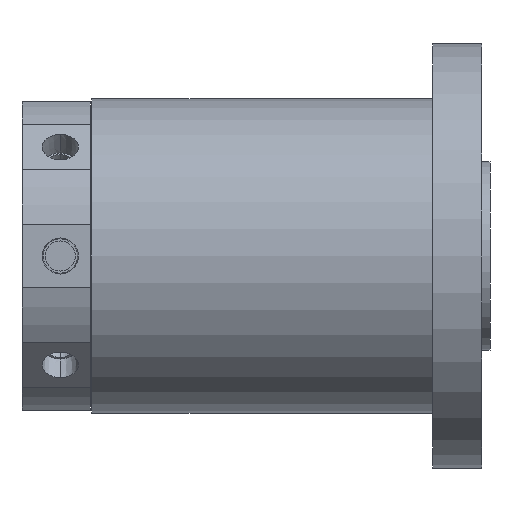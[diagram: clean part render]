
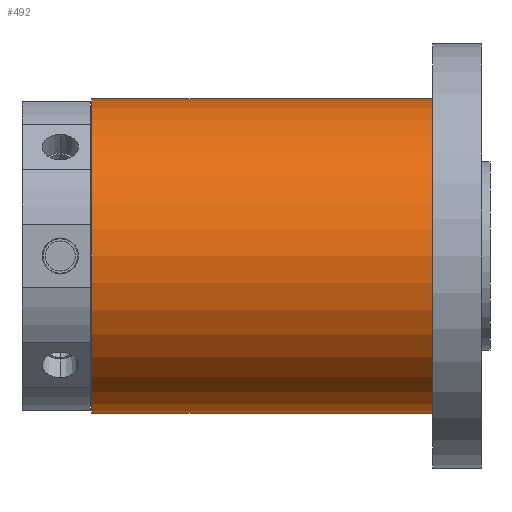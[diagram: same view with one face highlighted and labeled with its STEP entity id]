
A CAD part, left-side view. The second image highlights one B-rep face of the part: STEP entity #492.
In plain terms, the highlighted cylindrical face has radius 57.5 mm (diameter 115 mm), a partial arc.
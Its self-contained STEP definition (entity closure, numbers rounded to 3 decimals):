
#451=CARTESIAN_POINT('',(0.0,145.5,57.5));
#452=VERTEX_POINT('',#451);
#453=CARTESIAN_POINT('',(0.0,21.0,57.5));
#454=VERTEX_POINT('',#453);
#455=CARTESIAN_POINT('',(0.0,145.5,57.5));
#456=DIRECTION('',(0.0,-1.0,0.0));
#457=VECTOR('',#456,1.0);
#458=LINE('',#455,#457);
#459=EDGE_CURVE('no 1877',#452,#454,#458,.T.);
#460=ORIENTED_EDGE('',*,*,#459,.F.);
#461=CARTESIAN_POINT('',(0.0,145.5,-57.5));
#462=VERTEX_POINT('',#461);
#463=CARTESIAN_POINT('',(0.0,145.5,0.0));
#464=DIRECTION('',(0.0,-1.0,0.0));
#465=DIRECTION('',(0.0,0.0,1.0));
#466=AXIS2_PLACEMENT_3D('',#463,#464,#465);
#467=CIRCLE('',#466,57.5);
#468=EDGE_CURVE('no 1883',#452,#462,#467,.T.);
#469=ORIENTED_EDGE('',*,*,#468,.T.);
#470=CARTESIAN_POINT('',(0.0,21.0,-57.5));
#471=VERTEX_POINT('',#470);
#472=CARTESIAN_POINT('',(0.0,145.5,-57.5));
#473=DIRECTION('',(0.0,-1.0,0.0));
#474=VECTOR('',#473,1.0);
#475=LINE('',#472,#474);
#476=EDGE_CURVE('no 1889',#462,#471,#475,.T.);
#477=ORIENTED_EDGE('',*,*,#476,.T.);
#478=CARTESIAN_POINT('',(0.0,21.0,0.0));
#479=DIRECTION('',(0.0,-1.0,0.0));
#480=DIRECTION('',(0.0,0.0,-1.0));
#481=AXIS2_PLACEMENT_3D('',#478,#479,#480);
#482=CIRCLE('',#481,57.5);
#483=EDGE_CURVE('no 1893',#454,#471,#482,.T.);
#484=ORIENTED_EDGE('',*,*,#483,.F.);
#485=EDGE_LOOP('',(#460,#469,#477,#484));
#486=FACE_OUTER_BOUND('',#485,.T.);
#487=CARTESIAN_POINT('',(0.0,147.0,0.0));
#488=DIRECTION('',(0.0,-1.0,0.0));
#489=DIRECTION('',(1.0,0.0,-0.0));
#490=AXIS2_PLACEMENT_3D('',#487,#488,#489);
#491=CYLINDRICAL_SURFACE('',#490,57.5);
#492=ADVANCED_FACE('no 1868',(#486),#491,.T.);
